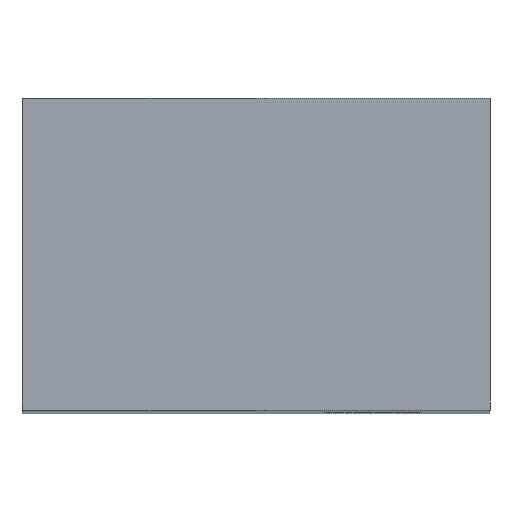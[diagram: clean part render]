
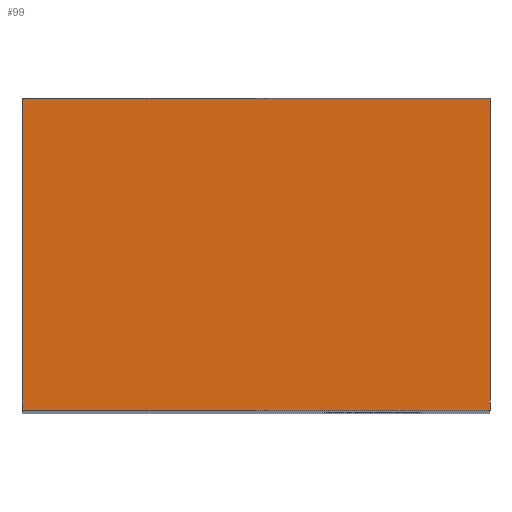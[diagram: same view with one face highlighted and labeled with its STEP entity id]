
A CAD part, top view. The second image highlights one B-rep face of the part: STEP entity #99.
In plain terms, the highlighted planar face has unit normal (0, 0, 1).
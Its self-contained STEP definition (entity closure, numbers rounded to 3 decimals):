
#99 = ADVANCED_FACE( '', ( #179 ), #180, .F. );
#179 = FACE_OUTER_BOUND( '', #282, .T. );
#180 = PLANE( '', #283 );
#282 = EDGE_LOOP( '', ( #448, #449, #450, #451 ) );
#283 = AXIS2_PLACEMENT_3D( '', #452, #453, #454 );
#448 = ORIENTED_EDGE( '', *, *, #516, .T. );
#449 = ORIENTED_EDGE( '', *, *, #543, .F. );
#450 = ORIENTED_EDGE( '', *, *, #539, .F. );
#451 = ORIENTED_EDGE( '', *, *, #521, .T. );
#452 = CARTESIAN_POINT( '', ( -12., -4., 29. ) );
#453 = DIRECTION( '', ( 0., 0., -1. ) );
#454 = DIRECTION( '', ( -1., 0., 0. ) );
#516 = EDGE_CURVE( '', #568, #566, #569, .T. );
#521 = EDGE_CURVE( '', #577, #568, #578, .T. );
#539 = EDGE_CURVE( '', #577, #611, #612, .T. );
#543 = EDGE_CURVE( '', #611, #566, #618, .T. );
#566 = VERTEX_POINT( '', #715 );
#568 = VERTEX_POINT( '', #718 );
#569 = LINE( '', #719, #720 );
#577 = VERTEX_POINT( '', #729 );
#578 = LINE( '', #730, #731 );
#611 = VERTEX_POINT( '', #966 );
#612 = LINE( '', #967, #968 );
#618 = LINE( '', #975, #976 );
#715 = CARTESIAN_POINT( '', ( 0., 4., 29. ) );
#718 = CARTESIAN_POINT( '', ( 0., -4., 29. ) );
#719 = CARTESIAN_POINT( '', ( 0., -4., 29. ) );
#720 = VECTOR( '', #1005, 1000. );
#729 = CARTESIAN_POINT( '', ( -12., -4., 29. ) );
#730 = CARTESIAN_POINT( '', ( -12., -4., 29. ) );
#731 = VECTOR( '', #1016, 1000. );
#966 = CARTESIAN_POINT( '', ( -12., 4., 29. ) );
#967 = CARTESIAN_POINT( '', ( -12., -4., 29. ) );
#968 = VECTOR( '', #1042, 1000. );
#975 = CARTESIAN_POINT( '', ( -12., 4., 29. ) );
#976 = VECTOR( '', #1050, 1000. );
#1005 = DIRECTION( '', ( 0., 1., 0. ) );
#1016 = DIRECTION( '', ( 1., 0., 0. ) );
#1042 = DIRECTION( '', ( 0., 1., 0. ) );
#1050 = DIRECTION( '', ( 1., 0., 0. ) );
